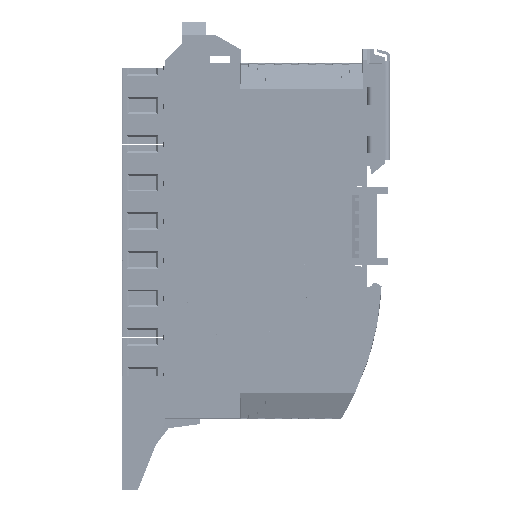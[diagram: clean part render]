
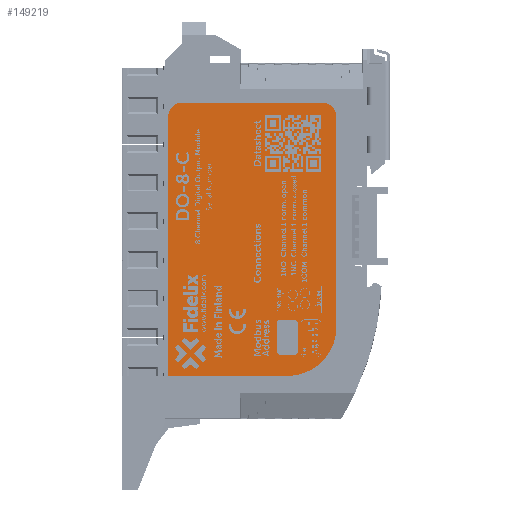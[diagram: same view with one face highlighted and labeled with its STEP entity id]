
A CAD part, left-side view. The second image highlights one B-rep face of the part: STEP entity #149219.
In plain terms, the highlighted planar face has unit normal (-1, 0, 0).
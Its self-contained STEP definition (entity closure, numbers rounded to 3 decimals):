
#2180=CIRCLE('',#157399,1.);
#2182=CIRCLE('',#157403,1.);
#2184=CIRCLE('',#157407,1.);
#2186=CIRCLE('',#157411,1.);
#2188=CIRCLE('',#157416,4.);
#2190=CIRCLE('',#157420,4.);
#2192=CIRCLE('',#157424,14.);
#3568=FACE_BOUND('',#19221,.T.);
#11245=FACE_OUTER_BOUND('',#19220,.T.);
#19220=EDGE_LOOP('',(#112798,#112799,#112800,#112801,#112802,#112803,#112804));
#19221=EDGE_LOOP('',(#112805,#112806,#112807,#112808,#112809,#112810,#112811,
#112812));
#32068=LINE('',#294080,#48468);
#32072=LINE('',#294092,#48472);
#32076=LINE('',#294104,#48476);
#32080=LINE('',#294116,#48480);
#32084=LINE('',#294128,#48484);
#32087=LINE('',#294134,#48487);
#32091=LINE('',#294146,#48491);
#32095=LINE('',#294158,#48495);
#48468=VECTOR('',#180098,1000.);
#48472=VECTOR('',#180110,1000.);
#48476=VECTOR('',#180122,1000.);
#48480=VECTOR('',#180134,1000.);
#48484=VECTOR('',#180146,1000.);
#48487=VECTOR('',#180151,1000.);
#48491=VECTOR('',#180163,1000.);
#48495=VECTOR('',#180175,1000.);
#63286=VERTEX_POINT('',#294077);
#63287=VERTEX_POINT('',#294079);
#63289=VERTEX_POINT('',#294085);
#63291=VERTEX_POINT('',#294091);
#63293=VERTEX_POINT('',#294097);
#63295=VERTEX_POINT('',#294103);
#63297=VERTEX_POINT('',#294109);
#63299=VERTEX_POINT('',#294115);
#63302=VERTEX_POINT('',#294125);
#63303=VERTEX_POINT('',#294127);
#63305=VERTEX_POINT('',#294133);
#63307=VERTEX_POINT('',#294139);
#63309=VERTEX_POINT('',#294145);
#63311=VERTEX_POINT('',#294151);
#63313=VERTEX_POINT('',#294157);
#80778=EDGE_CURVE('',#63287,#63286,#32068,.T.);
#80781=EDGE_CURVE('',#63289,#63287,#2180,.T.);
#80784=EDGE_CURVE('',#63291,#63289,#32072,.T.);
#80787=EDGE_CURVE('',#63293,#63291,#2182,.T.);
#80790=EDGE_CURVE('',#63295,#63293,#32076,.T.);
#80793=EDGE_CURVE('',#63297,#63295,#2184,.T.);
#80796=EDGE_CURVE('',#63299,#63297,#32080,.T.);
#80799=EDGE_CURVE('',#63286,#63299,#2186,.T.);
#80802=EDGE_CURVE('',#63303,#63302,#32084,.T.);
#80805=EDGE_CURVE('',#63305,#63303,#32087,.T.);
#80808=EDGE_CURVE('',#63307,#63305,#2188,.T.);
#80811=EDGE_CURVE('',#63309,#63307,#32091,.T.);
#80814=EDGE_CURVE('',#63311,#63309,#2190,.T.);
#80817=EDGE_CURVE('',#63313,#63311,#32095,.T.);
#80820=EDGE_CURVE('',#63302,#63313,#2192,.T.);
#112798=ORIENTED_EDGE('',*,*,#80820,.T.);
#112799=ORIENTED_EDGE('',*,*,#80817,.T.);
#112800=ORIENTED_EDGE('',*,*,#80814,.T.);
#112801=ORIENTED_EDGE('',*,*,#80811,.T.);
#112802=ORIENTED_EDGE('',*,*,#80808,.T.);
#112803=ORIENTED_EDGE('',*,*,#80805,.T.);
#112804=ORIENTED_EDGE('',*,*,#80802,.T.);
#112805=ORIENTED_EDGE('',*,*,#80799,.T.);
#112806=ORIENTED_EDGE('',*,*,#80796,.T.);
#112807=ORIENTED_EDGE('',*,*,#80793,.T.);
#112808=ORIENTED_EDGE('',*,*,#80790,.T.);
#112809=ORIENTED_EDGE('',*,*,#80787,.T.);
#112810=ORIENTED_EDGE('',*,*,#80784,.T.);
#112811=ORIENTED_EDGE('',*,*,#80781,.T.);
#112812=ORIENTED_EDGE('',*,*,#80778,.T.);
#134297=PLANE('',#157425);
#149219=ADVANCED_FACE('',(#11245,#3568),#134297,.T.);
#157399=AXIS2_PLACEMENT_3D('',#294086,#180104,#180105);
#157403=AXIS2_PLACEMENT_3D('',#294098,#180116,#180117);
#157407=AXIS2_PLACEMENT_3D('',#294110,#180128,#180129);
#157411=AXIS2_PLACEMENT_3D('',#294120,#180140,#180141);
#157416=AXIS2_PLACEMENT_3D('',#294140,#180157,#180158);
#157420=AXIS2_PLACEMENT_3D('',#294152,#180169,#180170);
#157424=AXIS2_PLACEMENT_3D('',#294162,#180181,#180182);
#157425=AXIS2_PLACEMENT_3D('',#294163,#180183,#180184);
#180098=DIRECTION('',(0.,0.,-1.));
#180104=DIRECTION('center_axis',(1.,0.,0.));
#180105=DIRECTION('ref_axis',(0.,-1.,0.));
#180110=DIRECTION('',(0.,-1.,0.));
#180116=DIRECTION('center_axis',(1.,0.,0.));
#180117=DIRECTION('ref_axis',(0.,0.,
1.));
#180122=DIRECTION('',(0.,0.,1.));
#180128=DIRECTION('center_axis',(1.,0.,0.));
#180129=DIRECTION('ref_axis',(0.,1.,0.));
#180134=DIRECTION('',(0.,1.,0.));
#180140=DIRECTION('center_axis',(1.,0.,0.));
#180141=DIRECTION('ref_axis',(0.,0.,
-1.));
#180146=DIRECTION('',(0.,-1.,0.));
#180151=DIRECTION('',(0.,0.,-1.));
#180157=DIRECTION('center_axis',(-1.,0.,0.));
#180158=DIRECTION('ref_axis',(0.,0.,
1.));
#180163=DIRECTION('',(0.,1.,0.));
#180169=DIRECTION('center_axis',(-1.,0.,0.));
#180170=DIRECTION('ref_axis',(0.,-1.,0.));
#180175=DIRECTION('',(0.,0.,1.));
#180181=DIRECTION('center_axis',(-1.,0.,0.));
#180182=DIRECTION('ref_axis',(0.,0.,
-1.));
#180183=DIRECTION('center_axis',(-1.,0.,0.));
#180184=DIRECTION('ref_axis',(0.,-1.,0.));
#294077=CARTESIAN_POINT('',(-9.55,19.7,-94.02));
#294079=CARTESIAN_POINT('',(-9.55,19.7,-86.02));
#294080=CARTESIAN_POINT('',(-9.55,19.7,-94.02));
#294085=CARTESIAN_POINT('',(-9.55,20.7,-85.02));
#294086=CARTESIAN_POINT('Origin',(-9.55,20.7,-86.02));
#294091=CARTESIAN_POINT('',(-9.55,24.7,-85.02));
#294092=CARTESIAN_POINT('',(-9.55,20.7,-85.02));
#294097=CARTESIAN_POINT('',(-9.55,25.7,-86.02));
#294098=CARTESIAN_POINT('Origin',(-9.55,24.7,-86.02));
#294103=CARTESIAN_POINT('',(-9.55,25.7,-94.02));
#294104=CARTESIAN_POINT('',(-9.55,25.7,-86.02));
#294109=CARTESIAN_POINT('',(-9.55,24.7,-95.02));
#294110=CARTESIAN_POINT('Origin',(-9.55,24.7,-94.02));
#294115=CARTESIAN_POINT('',(-9.55,20.7,-95.02));
#294116=CARTESIAN_POINT('',(-9.55,24.7,-95.02));
#294120=CARTESIAN_POINT('Origin',(-9.55,20.7,-94.02));
#294125=CARTESIAN_POINT('',(-9.55,22.7,-101.02));
#294127=CARTESIAN_POINT('',(-9.55,56.7,-101.02));
#294128=CARTESIAN_POINT('',(-9.55,56.7,-101.02));
#294133=CARTESIAN_POINT('',(-9.55,56.7,-27.02));
#294134=CARTESIAN_POINT('',(-9.55,56.7,-27.02));
#294139=CARTESIAN_POINT('',(-9.55,52.7,-23.02));
#294140=CARTESIAN_POINT('Origin',(-9.55,52.7,-27.02));
#294145=CARTESIAN_POINT('',(-9.55,12.7,-23.02));
#294146=CARTESIAN_POINT('',(-9.55,12.7,-23.02));
#294151=CARTESIAN_POINT('',(-9.55,8.7,-27.02));
#294152=CARTESIAN_POINT('Origin',(-9.55,12.7,-27.02));
#294157=CARTESIAN_POINT('',(-9.55,8.7,-87.02));
#294158=CARTESIAN_POINT('',(-9.55,8.7,-87.02));
#294162=CARTESIAN_POINT('Origin',(-9.55,22.7,-87.02));
#294163=CARTESIAN_POINT('Origin',(-9.55,32.7,-62.02));
